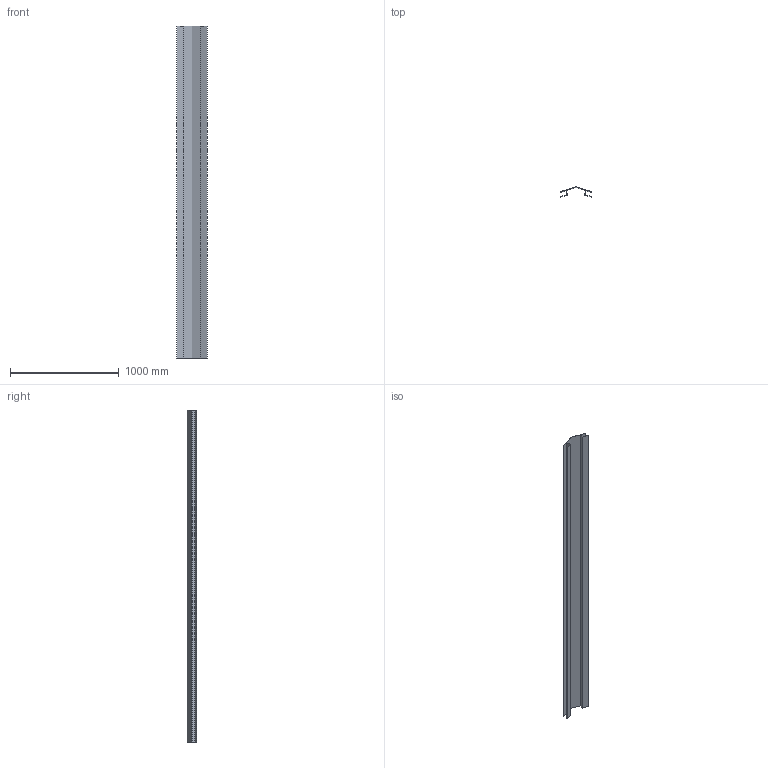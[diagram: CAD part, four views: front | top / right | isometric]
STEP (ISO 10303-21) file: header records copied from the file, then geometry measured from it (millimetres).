
FILE_DESCRIPTION(/* description */ (''),/* implementation_level */ '2;1');
FILE_NAME(/* name */ 'C:\Users\Utilisateur\Mac Metal\Site de communication - Documents\Ingénierie\1. Dessins techniques produits Mac\CAD_REVIT Molding drawing-MAC\MS 3 _ 4\M31B\M31B.stp',/* time_stamp */ '2023-02-08T11:39:22-05:00',/* author */ ('Utilisateur'),/* organization */ (''),/* preprocessor_version */ 'ST-DEVELOPER v18.1',/* originating_system */ 'Autodesk Inventor 2022',/* authorisation */ '');
FILE_SCHEMA (('AUTOMOTIVE_DESIGN { 1 0 10303 214 3 1 1 }'));
Length unit declared in the file: inch
Products named in the file (1): M31B
Bounding box: 281.87 x 89.33 x 3048 mm (x, y, z)
Volume: 942181.8 mm3; surface area: 3713094.7 mm2
Topology: 1 solids, 1 shells, 26 faces, 72 edges, 48 vertices
Faces by surface type: plane 20, cylinder 6
Entity records: 871 total; most frequent: CARTESIAN_POINT 147, ORIENTED_EDGE 144, DIRECTION 138, EDGE_CURVE 72, LINE 60, VECTOR 60, VERTEX_POINT 48, AXIS2_PLACEMENT_3D 39
